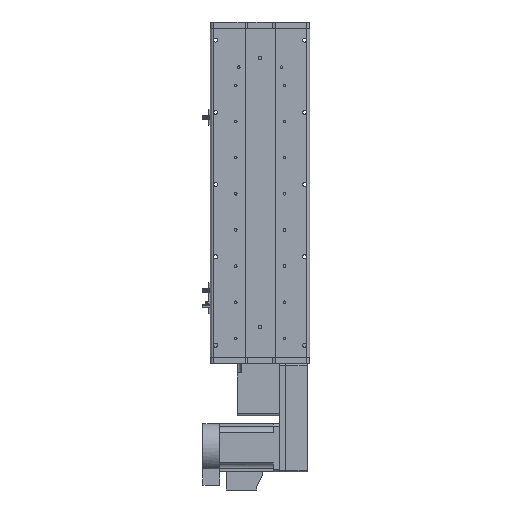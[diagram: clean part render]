
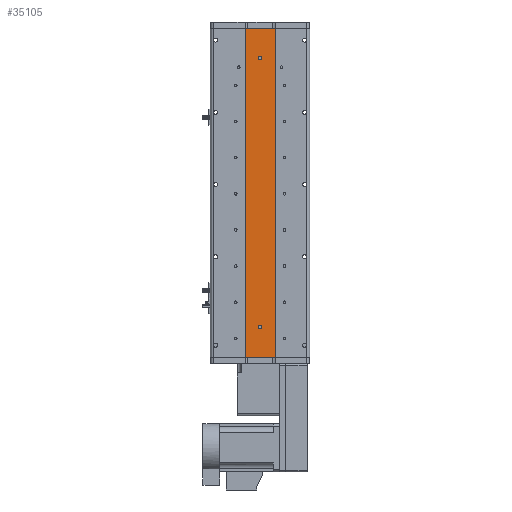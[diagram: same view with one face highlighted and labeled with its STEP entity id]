
A CAD part, front view. The second image highlights one B-rep face of the part: STEP entity #35105.
In plain terms, the highlighted planar face has unit normal (0, -1, 0).
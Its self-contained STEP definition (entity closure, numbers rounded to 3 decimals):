
#334 = AXIS2_PLACEMENT_3D ( 'NONE', #36244, #7874, #40953 ) ;
#395 = CARTESIAN_POINT ( 'NONE',  ( 0., 1., -223.5 ) ) ;
#462 = FACE_BOUND ( 'NONE', #27173, .T. ) ;
#1514 = EDGE_CURVE ( 'NONE', #57501, #31955, #36634, .T. ) ;
#1587 = ORIENTED_EDGE ( 'NONE', *, *, #1514, .T. ) ;
#2927 = AXIS2_PLACEMENT_3D ( 'NONE', #44487, #16170, #49267 ) ;
#3113 = PLANE ( 'NONE',  #334 ) ;
#4230 = CIRCLE ( 'NONE', #21860, 3. ) ;
#4696 = ORIENTED_EDGE ( 'NONE', *, *, #44862, .T. ) ;
#5131 = DIRECTION ( 'NONE',  ( 0., 0., 1. ) ) ;
#5367 = VECTOR ( 'NONE', #12980, 1000. ) ;
#6031 = LINE ( 'NONE', #12772, #29726 ) ;
#6581 = AXIS2_PLACEMENT_3D ( 'NONE', #395, #33535, #5131 ) ;
#7079 = DIRECTION ( 'NONE',  ( 0., 0., -1. ) ) ;
#7394 = DIRECTION ( 'NONE',  ( 0., 1., 0. ) ) ;
#7619 = ORIENTED_EDGE ( 'NONE', *, *, #51497, .F. ) ;
#7874 = DIRECTION ( 'NONE',  ( 0., 1., 0. ) ) ;
#9181 = VECTOR ( 'NONE', #57196, 1000. ) ;
#9488 = ORIENTED_EDGE ( 'NONE', *, *, #30862, .F. ) ;
#10493 = DIRECTION ( 'NONE',  ( 0., 1., 0. ) ) ;
#12772 = CARTESIAN_POINT ( 'NONE',  ( 25., 1., -273.5 ) ) ;
#12980 = DIRECTION ( 'NONE',  ( 0., 0., -1. ) ) ;
#13171 = ORIENTED_EDGE ( 'NONE', *, *, #53002, .T. ) ;
#13219 = EDGE_CURVE ( 'NONE', #28139, #13378, #44607, .T. ) ;
#13378 = VERTEX_POINT ( 'NONE', #41171 ) ;
#14865 = CARTESIAN_POINT ( 'NONE',  ( 0., 1., -220.5 ) ) ;
#16170 = DIRECTION ( 'NONE',  ( 0., 1., 0. ) ) ;
#17532 = DIRECTION ( 'NONE',  ( 1., 0., 0. ) ) ;
#18648 = VERTEX_POINT ( 'NONE', #57511 ) ;
#19671 = VERTEX_POINT ( 'NONE', #14865 ) ;
#21860 = AXIS2_PLACEMENT_3D ( 'NONE', #35786, #7394, #40475 ) ;
#24013 = VECTOR ( 'NONE', #7079, 1000. ) ;
#24189 = CARTESIAN_POINT ( 'NONE',  ( 25., 1., 273.5 ) ) ;
#24533 = AXIS2_PLACEMENT_3D ( 'NONE', #38847, #10493, #43575 ) ;
#24741 = LINE ( 'NONE', #24189, #9181 ) ;
#25595 = CIRCLE ( 'NONE', #24533, 3. ) ;
#25659 = FACE_BOUND ( 'NONE', #52845, .T. ) ;
#25907 = CARTESIAN_POINT ( 'NONE',  ( -25., 1., 273.5 ) ) ;
#27173 = EDGE_LOOP ( 'NONE', ( #45185, #33176 ) ) ;
#27199 = EDGE_LOOP ( 'NONE', ( #4696, #9488, #7619, #1587 ) ) ;
#28139 = VERTEX_POINT ( 'NONE', #29821 ) ;
#28790 = EDGE_CURVE ( 'NONE', #13378, #28139, #4230, .T. ) ;
#29726 = VECTOR ( 'NONE', #17532, 1000. ) ;
#29821 = CARTESIAN_POINT ( 'NONE',  ( 0., 1., 226.5 ) ) ;
#30862 = EDGE_CURVE ( 'NONE', #48162, #49672, #55642, .T. ) ;
#31955 = VERTEX_POINT ( 'NONE', #59103 ) ;
#33176 = ORIENTED_EDGE ( 'NONE', *, *, #13219, .T. ) ;
#33535 = DIRECTION ( 'NONE',  ( 0., 1., 0. ) ) ;
#35105 = ADVANCED_FACE ( 'NONE', ( #25659, #462, #60324 ), #3113, .F. ) ;
#35414 = EDGE_CURVE ( 'NONE', #18648, #19671, #25595, .T. ) ;
#35786 = CARTESIAN_POINT ( 'NONE',  ( 0., 1., 223.5 ) ) ;
#36244 = CARTESIAN_POINT ( 'NONE',  ( 25., 1., 273.5 ) ) ;
#36634 = LINE ( 'NONE', #25907, #24013 ) ;
#38847 = CARTESIAN_POINT ( 'NONE',  ( 0., 1., -223.5 ) ) ;
#40475 = DIRECTION ( 'NONE',  ( 0., 0., 1. ) ) ;
#40953 = DIRECTION ( 'NONE',  ( 0., 0., 1. ) ) ;
#41171 = CARTESIAN_POINT ( 'NONE',  ( 0., 1., 220.5 ) ) ;
#43575 = DIRECTION ( 'NONE',  ( 0., 0., 1. ) ) ;
#44487 = CARTESIAN_POINT ( 'NONE',  ( 0., 1., 223.5 ) ) ;
#44607 = CIRCLE ( 'NONE', #2927, 3. ) ;
#44862 = EDGE_CURVE ( 'NONE', #31955, #49672, #6031, .T. ) ;
#45185 = ORIENTED_EDGE ( 'NONE', *, *, #28790, .T. ) ;
#45208 = CIRCLE ( 'NONE', #6581, 3. ) ;
#46079 = CARTESIAN_POINT ( 'NONE',  ( 25., 1., 273.5 ) ) ;
#48162 = VERTEX_POINT ( 'NONE', #54809 ) ;
#49267 = DIRECTION ( 'NONE',  ( 0., 0., 1. ) ) ;
#49672 = VERTEX_POINT ( 'NONE', #53761 ) ;
#51497 = EDGE_CURVE ( 'NONE', #57501, #48162, #24741, .T. ) ;
#52845 = EDGE_LOOP ( 'NONE', ( #58263, #13171 ) ) ;
#53002 = EDGE_CURVE ( 'NONE', #19671, #18648, #45208, .T. ) ;
#53761 = CARTESIAN_POINT ( 'NONE',  ( 25., 1., -273.5 ) ) ;
#54809 = CARTESIAN_POINT ( 'NONE',  ( 25., 1., 273.5 ) ) ;
#55642 = LINE ( 'NONE', #46079, #5367 ) ;
#57196 = DIRECTION ( 'NONE',  ( 1., 0., 0. ) ) ;
#57501 = VERTEX_POINT ( 'NONE', #59369 ) ;
#57511 = CARTESIAN_POINT ( 'NONE',  ( 0., 1., -226.5 ) ) ;
#58263 = ORIENTED_EDGE ( 'NONE', *, *, #35414, .T. ) ;
#59103 = CARTESIAN_POINT ( 'NONE',  ( -25., 1., -273.5 ) ) ;
#59369 = CARTESIAN_POINT ( 'NONE',  ( -25., 1., 273.5 ) ) ;
#60324 = FACE_OUTER_BOUND ( 'NONE', #27199, .T. ) ;
